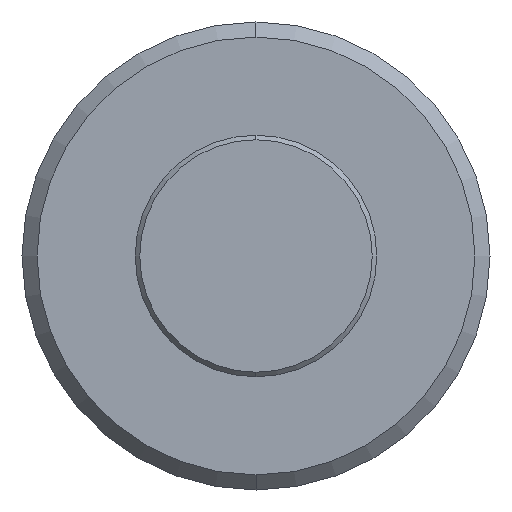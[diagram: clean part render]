
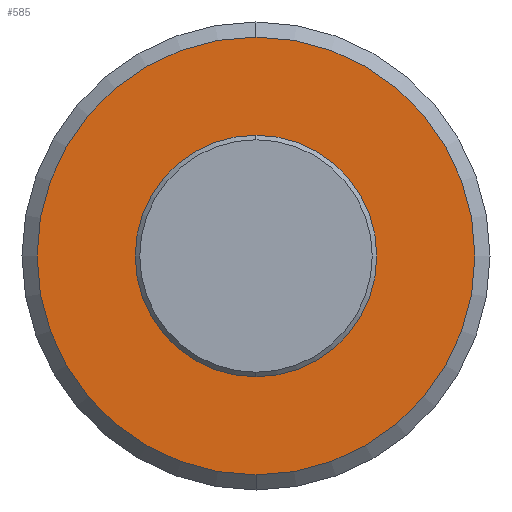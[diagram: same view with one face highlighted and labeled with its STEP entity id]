
A CAD part, left-side view. The second image highlights one B-rep face of the part: STEP entity #585.
In plain terms, the highlighted planar face has unit normal (-1, 0, 0).
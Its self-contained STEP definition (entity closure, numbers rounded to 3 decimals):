
#7 = ORIENTED_EDGE ( 'NONE', *, *, #9, .F. ) ;
#9 = EDGE_CURVE ( 'NONE', #213, #169, #427, .T. ) ;
#13 = VERTEX_POINT ( 'NONE', #331 ) ;
#18 = CARTESIAN_POINT ( 'NONE',  ( -24.026, 0., 0. ) ) ;
#27 = ORIENTED_EDGE ( 'NONE', *, *, #587, .F. ) ;
#34 = AXIS2_PLACEMENT_3D ( 'NONE', #124, #261, #360 ) ;
#40 = EDGE_LOOP ( 'NONE', ( #7, #27 ) ) ;
#111 = DIRECTION ( 'NONE',  ( -1., 0., 0. ) ) ;
#114 = AXIS2_PLACEMENT_3D ( 'NONE', #18, #111, #402 ) ;
#116 = PLANE ( 'NONE',  #407 ) ;
#124 = CARTESIAN_POINT ( 'NONE',  ( -24.026, 0., 0. ) ) ;
#164 = CARTESIAN_POINT ( 'NONE',  ( -24.026, 0., 8. ) ) ;
#168 = EDGE_CURVE ( 'NONE', #13, #474, #433, .T. ) ;
#169 = VERTEX_POINT ( 'NONE', #443 ) ;
#172 = CARTESIAN_POINT ( 'NONE',  ( -24.026, 0., 0. ) ) ;
#213 = VERTEX_POINT ( 'NONE', #164 ) ;
#237 = EDGE_CURVE ( 'NONE', #474, #13, #361, .T. ) ;
#261 = DIRECTION ( 'NONE',  ( -1., 0., 0. ) ) ;
#267 = CIRCLE ( 'NONE', #34, 8. ) ;
#286 = ORIENTED_EDGE ( 'NONE', *, *, #168, .T. ) ;
#305 = CARTESIAN_POINT ( 'NONE',  ( -24.026, 8., 0. ) ) ;
#309 = FACE_BOUND ( 'NONE', #40, .T. ) ;
#331 = CARTESIAN_POINT ( 'NONE',  ( -24.026, 0., -14.5 ) ) ;
#347 = ORIENTED_EDGE ( 'NONE', *, *, #237, .T. ) ;
#360 = DIRECTION ( 'NONE',  ( 0., 0., 1. ) ) ;
#361 = CIRCLE ( 'NONE', #470, 14.5 ) ;
#371 = DIRECTION ( 'NONE',  ( 0., 0., 1. ) ) ;
#402 = DIRECTION ( 'NONE',  ( 0., 0., 1. ) ) ;
#404 = DIRECTION ( 'NONE',  ( -1., 0., 0. ) ) ;
#407 = AXIS2_PLACEMENT_3D ( 'NONE', #305, #453, #555 ) ;
#427 = CIRCLE ( 'NONE', #527, 8. ) ;
#433 = CIRCLE ( 'NONE', #114, 14.5 ) ;
#443 = CARTESIAN_POINT ( 'NONE',  ( -24.026, 0., -8. ) ) ;
#453 = DIRECTION ( 'NONE',  ( 1., 0., 0. ) ) ;
#470 = AXIS2_PLACEMENT_3D ( 'NONE', #172, #404, #371 ) ;
#474 = VERTEX_POINT ( 'NONE', #633 ) ;
#502 = EDGE_LOOP ( 'NONE', ( #286, #347 ) ) ;
#527 = AXIS2_PLACEMENT_3D ( 'NONE', #580, #567, #623 ) ;
#540 = FACE_OUTER_BOUND ( 'NONE', #502, .T. ) ;
#555 = DIRECTION ( 'NONE',  ( 0., 0., -1. ) ) ;
#567 = DIRECTION ( 'NONE',  ( -1., 0., 0. ) ) ;
#580 = CARTESIAN_POINT ( 'NONE',  ( -24.026, 0., 0. ) ) ;
#585 = ADVANCED_FACE ( 'NONE', ( #309, #540 ), #116, .F. ) ;
#587 = EDGE_CURVE ( 'NONE', #169, #213, #267, .T. ) ;
#623 = DIRECTION ( 'NONE',  ( 0., 0., 1. ) ) ;
#633 = CARTESIAN_POINT ( 'NONE',  ( -24.026, 0., 14.5 ) ) ;
